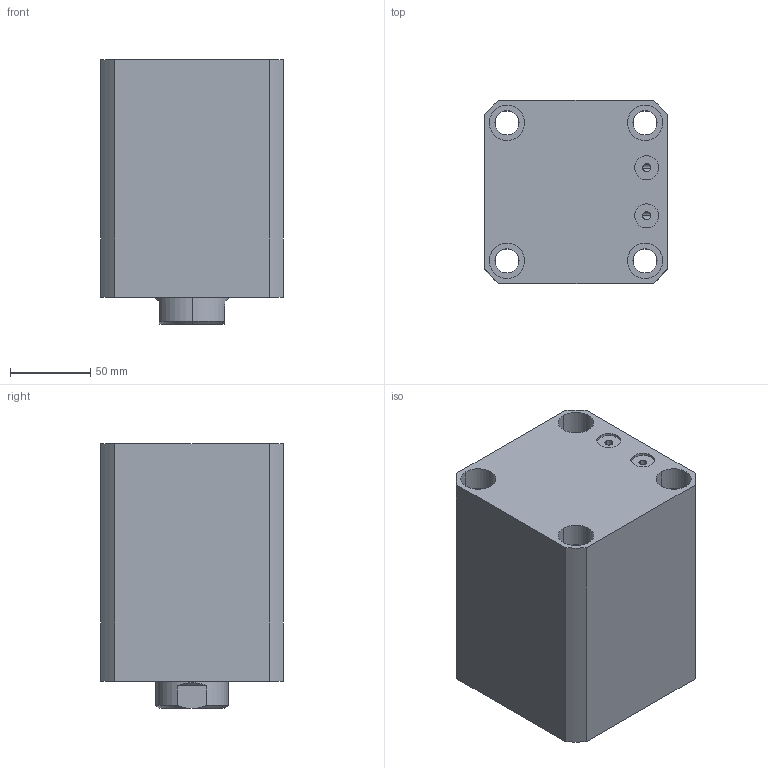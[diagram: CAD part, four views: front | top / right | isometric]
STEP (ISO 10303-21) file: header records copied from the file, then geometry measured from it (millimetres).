
FILE_DESCRIPTION (( 'STEP AP214' ), '1' );
FILE_NAME ('chtb-sdmb80x70n_asm.STEP', '2018-05-25T04:53:47', ( 'Windows' ), ( 'Microsoft' ), 'SwSTEP 2.0', 'SolidWorks 2015', '' );
FILE_SCHEMA (( 'AUTOMOTIVE_DESIGN' ));
Length unit declared in the file: millimetre
Products named in the file (4): CHTB-SDMB80X70NBT; CHTB-SD80X70NHSG; CHTB-SD80QG; chtb-sdmb80x70n_asm
Assembly tree (3 placements, depth 2):
  chtb-sdmb80x70n_asm
    CHTB-SD80QG
    CHTB-SD80X70NHSG
    CHTB-SDMB80X70NBT
Bounding box: 114 x 114 x 165 mm (x, y, z)
Volume: 1516897.2 mm3; surface area: 222031 mm2
Topology: 3 solids, 3 shells, 190 faces, 516 edges, 345 vertices
Faces by surface type: cylinder 107, plane 35, torus 18, cone 16, bspline 14
Entity records: 15174 total; most frequent: CARTESIAN_POINT 10467, ORIENTED_EDGE 1020, DIRECTION 879, EDGE_CURVE 510, AXIS2_PLACEMENT_3D 368, VERTEX_POINT 345, EDGE_LOOP 227, ADVANCED_FACE 190
